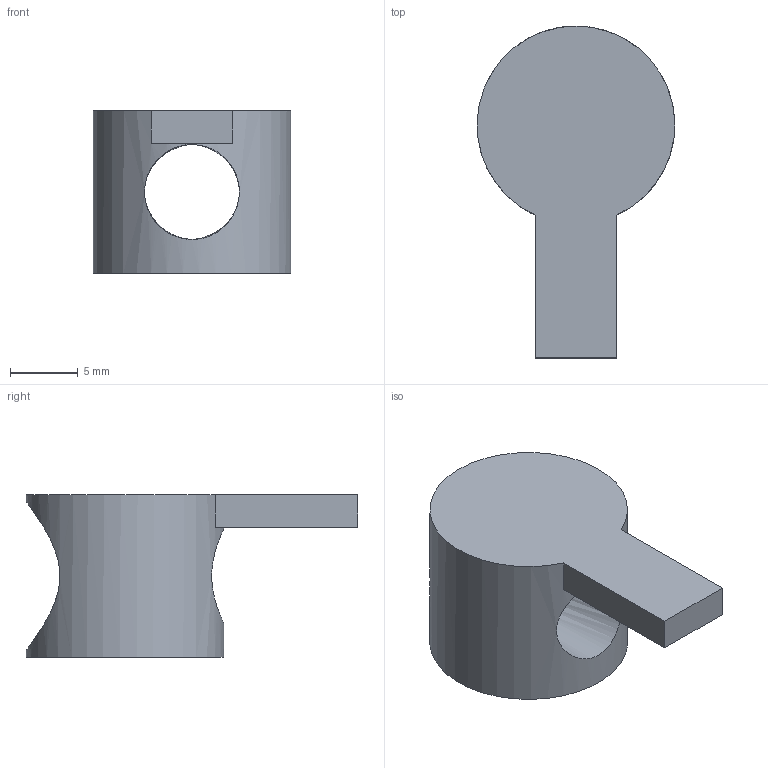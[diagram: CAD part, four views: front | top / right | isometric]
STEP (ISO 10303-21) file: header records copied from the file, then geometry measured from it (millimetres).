
FILE_DESCRIPTION((''),'2;1');
FILE_NAME('E:\catalogue and flyer\Profile catalogue 2015\Accessories JE info\Accessories-JE step file 31MAr16\JE-UJT16-8.stp','2016-04-07T11:44:04',('h029'),(''),'Autodesk Inventor 11','Autodesk Inventor 11','');
FILE_SCHEMA(('AUTOMOTIVE_DESIGN { 1 0 10303 214 1 1 1 1 }'));
Length unit declared in the file: millimetre
Products named in the file (1): JE-UJT16-8
Bounding box: 14.59 x 24.5 x 12 mm (x, y, z)
Volume: 1287 mm3; surface area: 1321.9 mm2
Topology: 1 solids, 1 shells, 10 faces, 26 edges, 18 vertices
Faces by surface type: plane 6, bspline 3, cylinder 1
Full cylindrical faces by diameter (mm): 14.6 x1
Entity records: 449 total; most frequent: CARTESIAN_POINT 227, DIRECTION 36, ORIENTED_EDGE 36, EDGE_CURVE 18, EDGE_LOOP 16, VERTEX_POINT 14, AXIS2_PLACEMENT_3D 13, FACE_OUTER_BOUND 10
